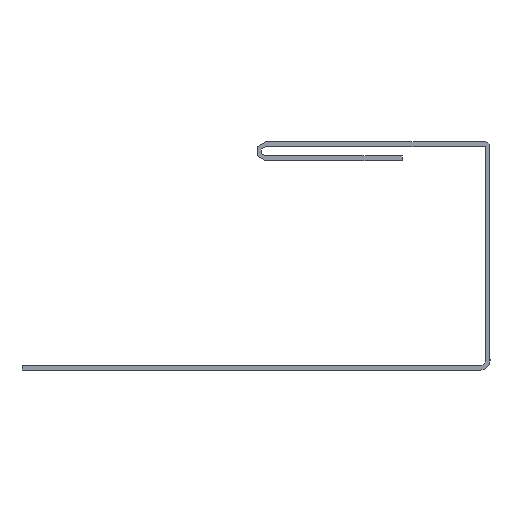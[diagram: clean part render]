
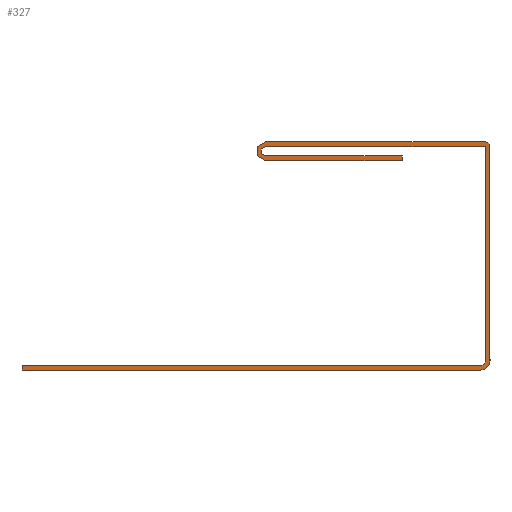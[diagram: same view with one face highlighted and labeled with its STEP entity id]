
A CAD part, left-side view. The second image highlights one B-rep face of the part: STEP entity #327.
In plain terms, the highlighted planar face has unit normal (-1, 0, 0).
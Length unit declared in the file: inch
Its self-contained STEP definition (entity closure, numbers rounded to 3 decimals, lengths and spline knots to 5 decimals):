
#15=CIRCLE('',#352,0.02);
#17=CIRCLE('',#357,0.01937);
#19=CIRCLE('',#363,0.03937);
#21=CIRCLE('',#367,0.02);
#23=CIRCLE('',#371,0.04);
#46=FACE_OUTER_BOUND('',#63,.T.);
#63=EDGE_LOOP('',(#284,#285,#286,#287,#288,#289,#290,#291,#292,#293,#294,
#295,#296,#297,#298));
#64=LINE('',#470,#99);
#68=LINE('',#478,#103);
#71=LINE('',#484,#106);
#75=LINE('',#496,#110);
#78=LINE('',#502,#113);
#82=LINE('',#514,#117);
#85=LINE('',#520,#120);
#88=LINE('',#526,#123);
#92=LINE('',#538,#127);
#96=LINE('',#550,#131);
#99=VECTOR('',#379,0.3937);
#103=VECTOR('',#385,0.3937);
#106=VECTOR('',#390,0.3937);
#110=VECTOR('',#402,0.3937);
#113=VECTOR('',#407,0.3937);
#117=VECTOR('',#419,0.3937);
#120=VECTOR('',#424,0.3937);
#123=VECTOR('',#429,0.3937);
#127=VECTOR('',#441,0.3937);
#131=VECTOR('',#453,0.3937);
#134=VERTEX_POINT('',#468);
#135=VERTEX_POINT('',#469);
#138=VERTEX_POINT('',#477);
#140=VERTEX_POINT('',#483);
#142=VERTEX_POINT('',#489);
#144=VERTEX_POINT('',#495);
#146=VERTEX_POINT('',#501);
#148=VERTEX_POINT('',#507);
#150=VERTEX_POINT('',#513);
#152=VERTEX_POINT('',#519);
#154=VERTEX_POINT('',#525);
#156=VERTEX_POINT('',#531);
#158=VERTEX_POINT('',#537);
#160=VERTEX_POINT('',#543);
#162=VERTEX_POINT('',#549);
#164=EDGE_CURVE('',#134,#135,#64,.T.);
#168=EDGE_CURVE('',#138,#134,#68,.T.);
#171=EDGE_CURVE('',#140,#138,#71,.T.);
#174=EDGE_CURVE('',#142,#140,#15,.T.);
#177=EDGE_CURVE('',#144,#142,#75,.T.);
#180=EDGE_CURVE('',#146,#144,#78,.T.);
#183=EDGE_CURVE('',#148,#146,#17,.T.);
#186=EDGE_CURVE('',#150,#148,#82,.T.);
#189=EDGE_CURVE('',#152,#150,#85,.T.);
#192=EDGE_CURVE('',#154,#152,#88,.T.);
#195=EDGE_CURVE('',#156,#154,#19,.T.);
#198=EDGE_CURVE('',#158,#156,#92,.T.);
#201=EDGE_CURVE('',#160,#158,#21,.T.);
#204=EDGE_CURVE('',#162,#160,#96,.T.);
#207=EDGE_CURVE('',#135,#162,#23,.T.);
#284=ORIENTED_EDGE('',*,*,#207,.F.);
#285=ORIENTED_EDGE('',*,*,#164,.F.);
#286=ORIENTED_EDGE('',*,*,#168,.F.);
#287=ORIENTED_EDGE('',*,*,#171,.F.);
#288=ORIENTED_EDGE('',*,*,#174,.F.);
#289=ORIENTED_EDGE('',*,*,#177,.F.);
#290=ORIENTED_EDGE('',*,*,#180,.F.);
#291=ORIENTED_EDGE('',*,*,#183,.F.);
#292=ORIENTED_EDGE('',*,*,#186,.F.);
#293=ORIENTED_EDGE('',*,*,#189,.F.);
#294=ORIENTED_EDGE('',*,*,#192,.F.);
#295=ORIENTED_EDGE('',*,*,#195,.F.);
#296=ORIENTED_EDGE('',*,*,#198,.F.);
#297=ORIENTED_EDGE('',*,*,#201,.F.);
#298=ORIENTED_EDGE('',*,*,#204,.F.);
#310=PLANE('',#374);
#327=ADVANCED_FACE('',(#46),#310,.F.);
#352=AXIS2_PLACEMENT_3D('',#490,#395,#396);
#357=AXIS2_PLACEMENT_3D('',#508,#412,#413);
#363=AXIS2_PLACEMENT_3D('',#532,#434,#435);
#367=AXIS2_PLACEMENT_3D('',#544,#446,#447);
#371=AXIS2_PLACEMENT_3D('',#555,#458,#459);
#374=AXIS2_PLACEMENT_3D('',#558,#464,#465);
#379=DIRECTION('',(0.,1.,0.));
#385=DIRECTION('',(0.,0.,-1.));
#390=DIRECTION('',(0.,-1.,0.));
#395=DIRECTION('center_axis',(-1.,0.,0.));
#396=DIRECTION('ref_axis',(0.,0.,1.));
#402=DIRECTION('',(0.,1.,0.));
#407=DIRECTION('',(0.,0.,1.));
#412=DIRECTION('center_axis',(-1.,0.,0.));
#413=DIRECTION('ref_axis',(0.,1.,0.));
#419=DIRECTION('',(0.,-1.,0.));
#424=DIRECTION('',(0.,0.,1.));
#429=DIRECTION('',(0.,1.,0.));
#434=DIRECTION('center_axis',(1.,0.,0.));
#435=DIRECTION('ref_axis',(0.,-1.,0.));
#441=DIRECTION('',(0.,0.,-1.));
#446=DIRECTION('center_axis',(1.,0.,0.));
#447=DIRECTION('ref_axis',(0.,0.,1.));
#453=DIRECTION('',(0.,-1.,0.));
#458=DIRECTION('center_axis',(1.,0.,0.));
#459=DIRECTION('ref_axis',(0.,0.,-1.));
#464=DIRECTION('center_axis',(1.,0.,0.));
#465=DIRECTION('ref_axis',(0.,0.,-1.));
#468=CARTESIAN_POINT('',(0.,0.35544,-0.16154));
#469=CARTESIAN_POINT('',(0.,0.9404,-0.16154));
#470=CARTESIAN_POINT('',(0.,0.35544,-0.16154));
#477=CARTESIAN_POINT('',(0.,0.35544,-0.14154));
#478=CARTESIAN_POINT('',(0.,0.35544,-0.14154));
#483=CARTESIAN_POINT('',(0.,0.9404,-0.14154));
#484=CARTESIAN_POINT('',(0.,0.9404,-0.14154));
#489=CARTESIAN_POINT('',(0.,0.9404,-0.10154));
#490=CARTESIAN_POINT('Origin',(0.,0.9404,-0.12154));
#495=CARTESIAN_POINT('',(0.,0.0004,-0.10154));
#496=CARTESIAN_POINT('',(0.,0.0004,-0.10154));
#501=CARTESIAN_POINT('',(0.,0.0004,-1.01716));
#502=CARTESIAN_POINT('',(0.,0.0004,-1.01716));
#507=CARTESIAN_POINT('',(0.,0.01977,-1.03654));
#508=CARTESIAN_POINT('Origin',(0.,0.01977,-1.01716));
#513=CARTESIAN_POINT('',(0.,1.9804,-1.03654));
#514=CARTESIAN_POINT('',(0.,1.9804,-1.03654));
#519=CARTESIAN_POINT('',(0.,1.9804,-1.05654));
#520=CARTESIAN_POINT('',(0.,1.9804,-1.05654));
#525=CARTESIAN_POINT('',(0.,0.01977,-1.05654));
#526=CARTESIAN_POINT('',(0.,0.01977,-1.05654));
#531=CARTESIAN_POINT('',(0.,-0.0196,-1.01716));
#532=CARTESIAN_POINT('Origin',(0.,0.01977,-1.01716));
#537=CARTESIAN_POINT('',(0.,-0.0196,-0.10154));
#538=CARTESIAN_POINT('',(0.,-0.0196,-0.10154));
#543=CARTESIAN_POINT('',(0.,0.0004,-0.08154));
#544=CARTESIAN_POINT('Origin',(0.,0.0004,-0.10154));
#549=CARTESIAN_POINT('',(0.,0.9404,-0.08154));
#550=CARTESIAN_POINT('',(0.,0.9404,-0.08154));
#555=CARTESIAN_POINT('Origin',(0.,0.9404,-0.12154));
#558=CARTESIAN_POINT('Origin',(0.,0.9804,-0.56904));
